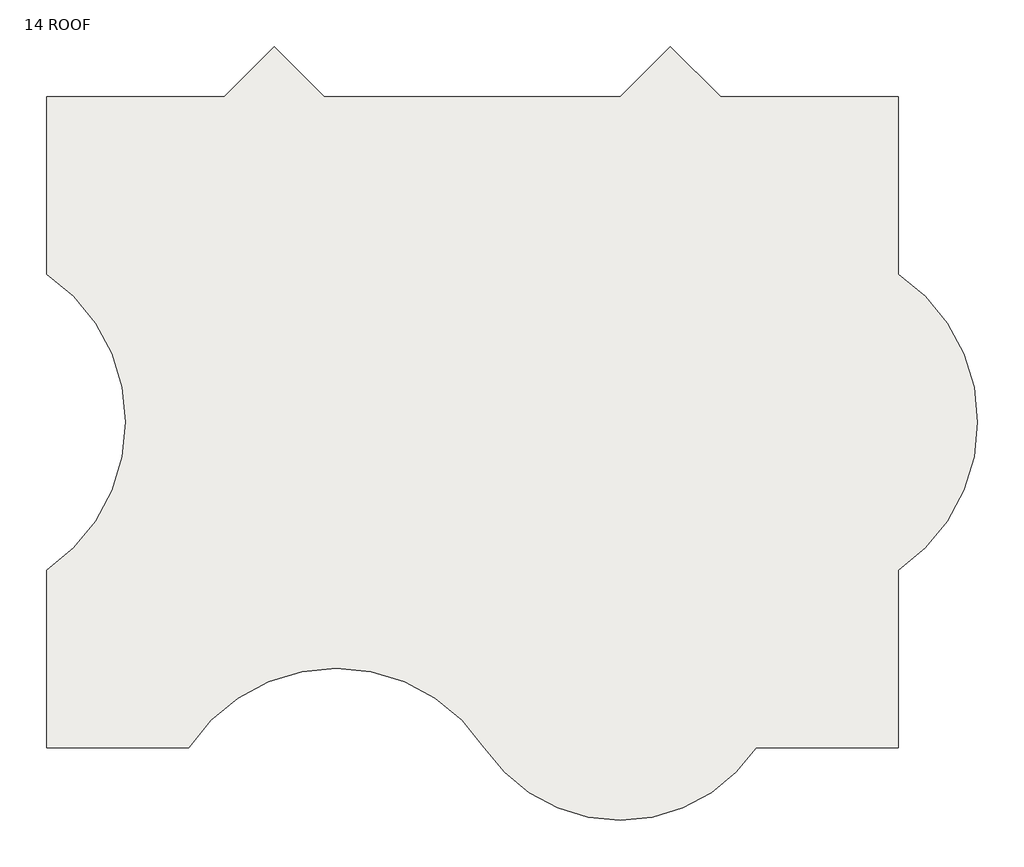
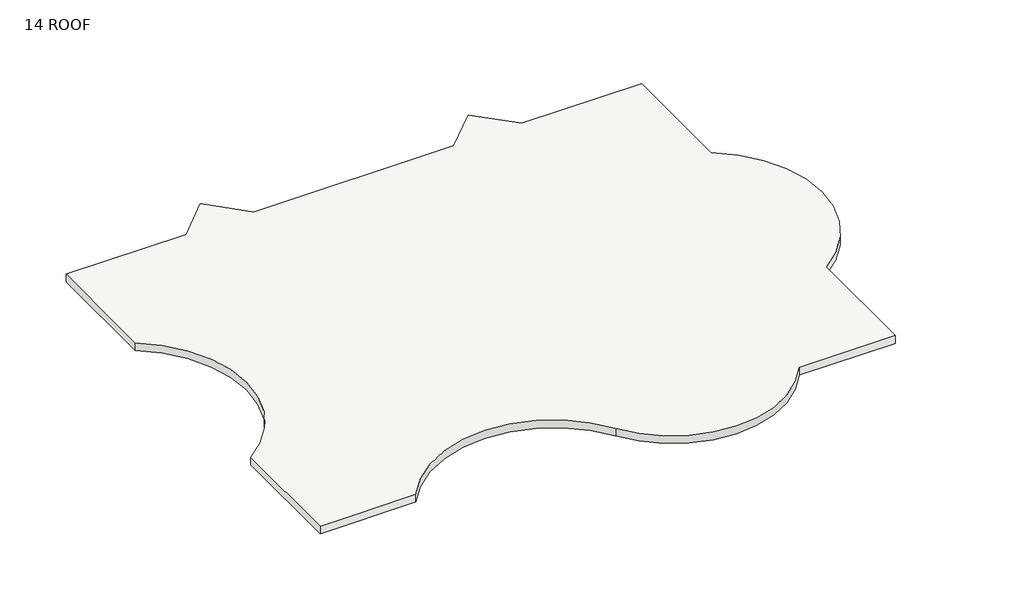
# One storey: 1 roof.
"""IFC4 building model written with IfcOpenShell, lengths in millimetres."""

from ifc_helpers import new_model, si_unit, point, frame, frame_2d, origin, place, context, project, spatial, polyline, circle_curve, trimmed, segment, composite_curve, outline, extrude, element, save

model = new_model("IFC4")

# Units and contexts
model_context = context("Model", 3, world=origin())
ifc_project = project(units=[si_unit("LENGTHUNIT", "METRE", prefix="MILLI")], contexts=[model_context])

# Site, building, storey
site = spatial("IfcSite", under=ifc_project)
building = spatial("IfcBuilding", under=site)
storey = spatial("IfcBuildingStorey", under=building, Name="14 ROOF", Elevation=64922.4)

# Roof
placement = place(None, origin())
element("IfcRoof", 1, ObjectType="Steel Truss - Insulation on Metal Deck - EPDM", at=placement, inside=storey, context=model_context, shape_type="SweptSolid", body=[
    extrude(outline(composite_curve([segment(polyline([(155.575, 24539.575), (155.575, 33683.575), (9299.575, 33683.575), (11885.8887629, 36269.8887629), (14472.2025257, 33683.575), (29712.2025257, 33683.575), (32298.5162886, 36269.8887629), (34884.8300515, 33683.575), (44028.8300515, 33683.575), (44028.8300515, 24539.575)]), True, "CONTINUOUS"), segment(trimmed(circle_curve(frame_2d((38974.293871, 16919.575)), 9144.0), [point((44028.8300515, 24539.575))], [point((44028.8300515, 9299.575))], False, "CARTESIAN"), True, "CONTINUOUS"), segment(polyline([(44028.8300515, 9299.575), (44028.8300515, 155.575), (36713.6300515, 155.575)]), True, "CONTINUOUS"), segment(trimmed(circle_curve(frame_2d((29712.2025257, 4799.7966199)), 8401.7130309), [point((36713.6300515, 155.575))], [point((22710.775, 155.575))], False, "CARTESIAN"), True, "CONTINUOUS"), segment(trimmed(circle_curve(frame_2d((15090.775, -4898.9611805)), 9144.0), [point((22710.775, 155.575))], [point((7470.775, 155.575))], True, "CARTESIAN"), True, "CONTINUOUS"), segment(polyline([(7470.775, 155.575), (155.575, 155.575), (155.575, 9299.575)]), True, "CONTINUOUS"), segment(trimmed(circle_curve(frame_2d((-4898.9611805, 16919.575)), 9144.0), [point((155.575, 9299.575))], [point((155.575, 24539.575))], True, "CARTESIAN"), True, "CONTINUOUS")], self_intersect=False)), frame((0.0, 0.0, 64922.4), z_axis=(0.0, 0.0, 1.0), x_axis=(1.0, 0.0, 0.0)), (0.0, 0.0, 1.0), 622.3),
])

save(model, "model.ifc")
